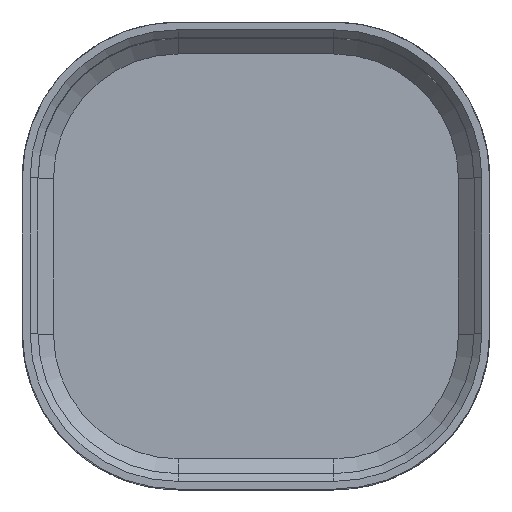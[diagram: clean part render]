
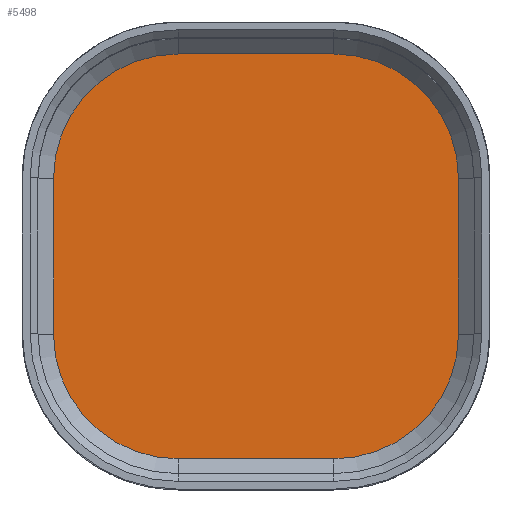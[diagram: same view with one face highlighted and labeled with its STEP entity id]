
A CAD part, top view. The second image highlights one B-rep face of the part: STEP entity #5498.
In plain terms, the highlighted planar face has unit normal (0, 0, 1).
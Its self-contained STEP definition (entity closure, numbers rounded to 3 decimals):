
#832=CIRCLE('',#5665,16.);
#834=CIRCLE('',#5669,16.);
#836=CIRCLE('',#5673,16.);
#838=CIRCLE('',#5677,16.);
#1012=FACE_OUTER_BOUND('',#1215,.T.);
#1215=EDGE_LOOP('',(#3879,#3880,#3881,#3882,#3883,#3884,#3885,#3886));
#1504=LINE('',#6952,#1756);
#1509=LINE('',#6966,#1761);
#1513=LINE('',#6978,#1765);
#1517=LINE('',#6990,#1769);
#1756=VECTOR('',#6011,10.);
#1761=VECTOR('',#6024,10.);
#1765=VECTOR('',#6036,10.);
#1769=VECTOR('',#6048,10.);
#2008=VERTEX_POINT('',#6949);
#2009=VERTEX_POINT('',#6951);
#2012=VERTEX_POINT('',#6958);
#2014=VERTEX_POINT('',#6964);
#2016=VERTEX_POINT('',#6970);
#2018=VERTEX_POINT('',#6976);
#2020=VERTEX_POINT('',#6982);
#2022=VERTEX_POINT('',#6988);
#2704=EDGE_CURVE('',#2008,#2009,#1504,.T.);
#2708=EDGE_CURVE('',#2012,#2008,#832,.T.);
#2711=EDGE_CURVE('',#2014,#2012,#1509,.T.);
#2714=EDGE_CURVE('',#2016,#2014,#834,.T.);
#2717=EDGE_CURVE('',#2018,#2016,#1513,.T.);
#2720=EDGE_CURVE('',#2020,#2018,#836,.T.);
#2723=EDGE_CURVE('',#2022,#2020,#1517,.T.);
#2725=EDGE_CURVE('',#2009,#2022,#838,.T.);
#3879=ORIENTED_EDGE('',*,*,#2704,.F.);
#3880=ORIENTED_EDGE('',*,*,#2708,.F.);
#3881=ORIENTED_EDGE('',*,*,#2711,.F.);
#3882=ORIENTED_EDGE('',*,*,#2714,.F.);
#3883=ORIENTED_EDGE('',*,*,#2717,.F.);
#3884=ORIENTED_EDGE('',*,*,#2720,.F.);
#3885=ORIENTED_EDGE('',*,*,#2723,.F.);
#3886=ORIENTED_EDGE('',*,*,#2725,.F.);
#5469=PLANE('',#5729);
#5498=ADVANCED_FACE('',(#1012),#5469,.T.);
#5665=AXIS2_PLACEMENT_3D('',#6960,#6017,#6018);
#5669=AXIS2_PLACEMENT_3D('',#6972,#6029,#6030);
#5673=AXIS2_PLACEMENT_3D('',#6984,#6041,#6042);
#5677=AXIS2_PLACEMENT_3D('',#6993,#6052,#6053);
#5729=AXIS2_PLACEMENT_3D('',#8740,#6188,#6189);
#6011=DIRECTION('',(1.,0.,0.));
#6017=DIRECTION('center_axis',(0.,0.,-1.));
#6018=DIRECTION('ref_axis',(0.,1.,0.));
#6024=DIRECTION('',(0.,1.,0.));
#6029=DIRECTION('center_axis',(0.,0.,-1.));
#6030=DIRECTION('ref_axis',(-1.,0.,0.));
#6036=DIRECTION('',(-1.,0.,0.));
#6041=DIRECTION('center_axis',(0.,0.,-1.));
#6042=DIRECTION('ref_axis',(0.,-1.,0.));
#6048=DIRECTION('',(0.,-1.,0.));
#6052=DIRECTION('center_axis',(0.,0.,-1.));
#6053=DIRECTION('ref_axis',(1.,0.,0.));
#6188=DIRECTION('center_axis',(0.,0.,1.));
#6189=DIRECTION('ref_axis',(1.,0.,0.));
#6949=CARTESIAN_POINT('',(-10.,26.,2.));
#6951=CARTESIAN_POINT('',(10.,26.,2.));
#6952=CARTESIAN_POINT('',(5.,26.,2.));
#6958=CARTESIAN_POINT('',(-26.,10.,2.));
#6960=CARTESIAN_POINT('Origin',(-10.,10.,2.));
#6964=CARTESIAN_POINT('',(-26.,-10.,2.));
#6966=CARTESIAN_POINT('',(-26.,5.,2.));
#6970=CARTESIAN_POINT('',(-10.,-26.,2.));
#6972=CARTESIAN_POINT('Origin',(-10.,-10.,2.));
#6976=CARTESIAN_POINT('',(10.,-26.,2.));
#6978=CARTESIAN_POINT('',(-5.,-26.,2.));
#6982=CARTESIAN_POINT('',(26.,-10.,2.));
#6984=CARTESIAN_POINT('Origin',(10.,-10.,2.));
#6988=CARTESIAN_POINT('',(26.,10.,2.));
#6990=CARTESIAN_POINT('',(26.,-5.,2.));
#6993=CARTESIAN_POINT('Origin',(10.,10.,2.));
#8740=CARTESIAN_POINT('Origin',(0.,0.,
2.));
